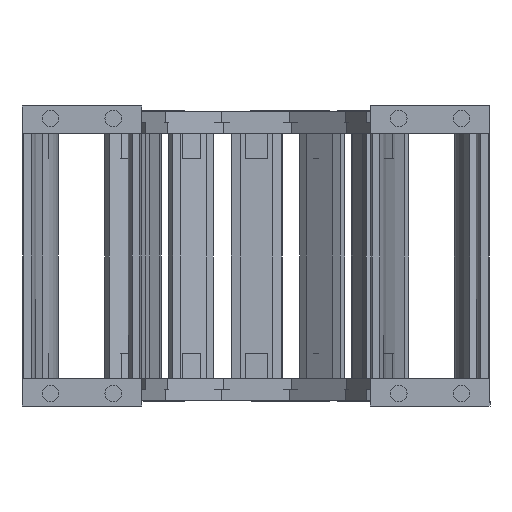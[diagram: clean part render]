
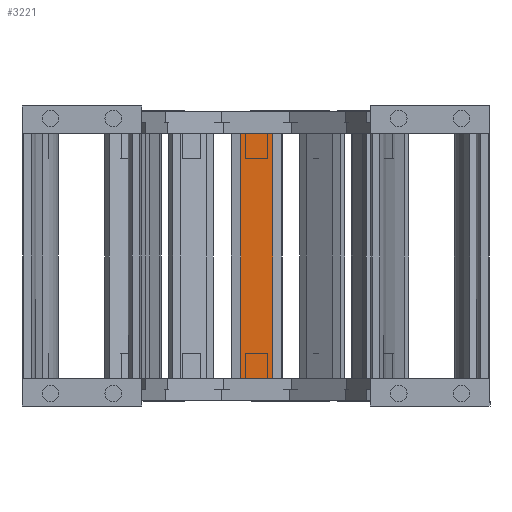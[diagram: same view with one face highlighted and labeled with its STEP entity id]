
A CAD part, left-side view. The second image highlights one B-rep face of the part: STEP entity #3221.
In plain terms, the highlighted planar face has unit normal (-1, 0.005, 0) as drawn and (0, -1, 0) by its records, which use the part's own axes.
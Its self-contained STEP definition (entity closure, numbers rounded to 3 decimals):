
#3054=DIRECTION('',(0.,0.,-1.));
#3055=VECTOR('',#3054,175.4);
#3056=CARTESIAN_POINT('',(-11.5,-82.,37.5));
#3057=LINE('',#3056,#3055);
#3083=DIRECTION('',(1.,0.,0.));
#3084=VECTOR('',#3083,23.);
#3085=CARTESIAN_POINT('',(-11.5,-82.,37.5));
#3086=LINE('',#3085,#3084);
#3140=DIRECTION('',(-1.,0.,0.));
#3141=VECTOR('',#3140,23.);
#3142=CARTESIAN_POINT('',(11.5,-82.,-137.9));
#3143=LINE('',#3142,#3141);
#3168=DIRECTION('',(0.,0.,-1.));
#3169=VECTOR('',#3168,175.4);
#3170=CARTESIAN_POINT('',(11.5,-82.,37.5));
#3171=LINE('',#3170,#3169);
#3188=CARTESIAN_POINT('',(11.5,-82.,-137.9));
#3189=VERTEX_POINT('',#3188);
#3190=CARTESIAN_POINT('',(-11.5,-82.,-137.9));
#3191=VERTEX_POINT('',#3190);
#3200=CARTESIAN_POINT('',(11.5,-82.,37.5));
#3201=VERTEX_POINT('',#3200);
#3204=CARTESIAN_POINT('',(-11.5,-82.,37.5));
#3205=VERTEX_POINT('',#3204);
#3206=CARTESIAN_POINT('',(15.5,-82.,-137.9));
#3207=DIRECTION('',(0.,1.,0.));
#3208=DIRECTION('',(-1.,0.,0.));
#3209=AXIS2_PLACEMENT_3D('',#3206,#3207,#3208);
#3210=PLANE('',#3209);
#3212=ORIENTED_EDGE('',*,*,#3211,.F.);
#3214=ORIENTED_EDGE('',*,*,#3213,.T.);
#3216=ORIENTED_EDGE('',*,*,#3215,.T.);
#3218=ORIENTED_EDGE('',*,*,#3217,.T.);
#3219=EDGE_LOOP('',(#3212,#3214,#3216,#3218));
#3220=FACE_OUTER_BOUND('',#3219,.F.);
#3221=ADVANCED_FACE('',(#3220),#3210,.F.);
#3211=EDGE_CURVE('',#3205,#3191,#3057,.T.);
#3213=EDGE_CURVE('',#3205,#3201,#3086,.T.);
#3215=EDGE_CURVE('',#3201,#3189,#3171,.T.);
#3217=EDGE_CURVE('',#3189,#3191,#3143,.T.);
